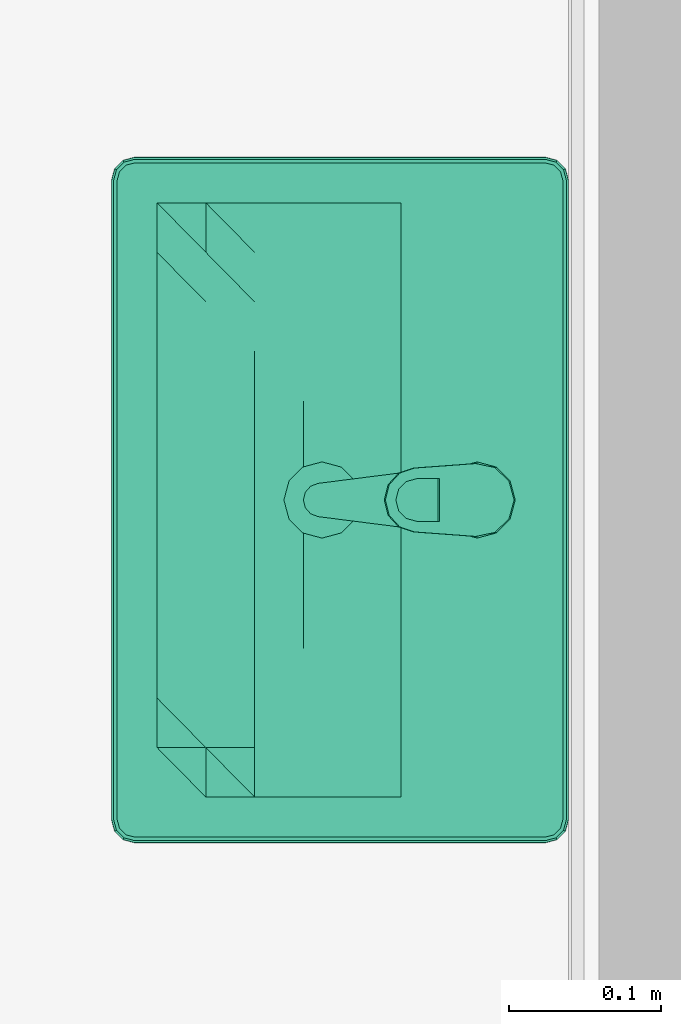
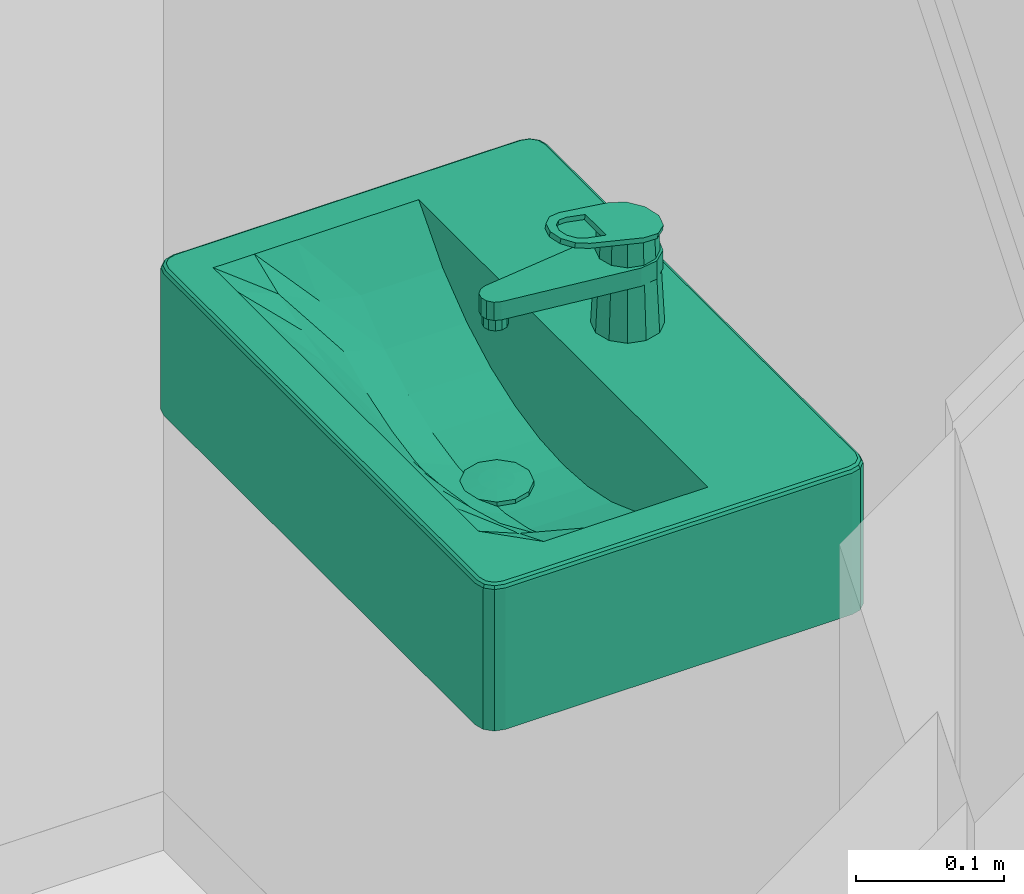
# One storey, part 310 of 347: 1 flow terminal.
"""IFC2X3 building model written with IfcOpenShell, lengths in millimetres."""

from ifc_helpers import new_model, entity, si_unit, converted_unit, derived_unit, money_unit, direction, frame, origin_with_axes, place, context, subcontext, project, spatial, open_shell, faceted_brep, surface_model, type_object, element, save


model = new_model("IFC2X3")

# Units and contexts
model_context = context("Model", 3, precision=0.01, world=origin_with_axes(), true_north=direction((0.0, 1.0)))
plan_context = context("Plan", 3, precision=0.01, world=origin_with_axes(), true_north=direction((0.0, 1.0)))
body_context = subcontext(model_context, "Body", "Model", "MODEL_VIEW")
ifc_project = project(units=[si_unit("LENGTHUNIT", "METRE", prefix="MILLI"), si_unit("AREAUNIT", "SQUARE_METRE"), si_unit("VOLUMEUNIT", "CUBIC_METRE"), converted_unit("PLANEANGLEUNIT", "DEGREE", entity("IfcPlaneAngleMeasure", 0.0174532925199), si_unit("PLANEANGLEUNIT", "RADIAN"), dimensions=[0, 0, 0, 0, 0, 0, 0]), money_unit("EUR"), converted_unit("TIMEUNIT", "Year", entity("IfcTimeMeasure", 31556926.0), si_unit("TIMEUNIT", "SECOND"), dimensions=[0, 0, 1, 0, 0, 0, 0]), si_unit("MASSUNIT", "GRAM", prefix="KILO"), si_unit("THERMODYNAMICTEMPERATUREUNIT", "DEGREE_CELSIUS"), si_unit("LUMINOUSINTENSITYUNIT", "LUMEN"), si_unit("ENERGYUNIT", "JOULE", prefix="MEGA"), derived_unit("THERMALCONDUCTANCEUNIT", [(si_unit("POWERUNIT", "WATT"), 1), (si_unit("LENGTHUNIT", "METRE"), -1), (si_unit("THERMODYNAMICTEMPERATUREUNIT", "KELVIN"), -1)]), derived_unit("SPECIFICHEATCAPACITYUNIT", [(si_unit("ENERGYUNIT", "JOULE"), 1), (si_unit("MASSUNIT", "GRAM", prefix="KILO"), -1), (si_unit("THERMODYNAMICTEMPERATUREUNIT", "KELVIN"), -1)]), derived_unit("MASSDENSITYUNIT", [(si_unit("MASSUNIT", "GRAM", prefix="KILO"), 1), (si_unit("VOLUMEUNIT", "CUBIC_METRE"), -1)])], contexts=[model_context, plan_context])

# Site, building, storey
site_placement = place(None, origin_with_axes())
site = spatial("IfcSite", under=ifc_project, at=site_placement, Name="Site", CompositionType="ELEMENT")
building_placement = place(site_placement, origin_with_axes())
building = spatial("IfcBuilding", under=site, at=building_placement, Name="Naam gebouw", CompositionType="ELEMENT")
storey_placement = place(building_placement, origin_with_axes())
storey = spatial("IfcBuildingStorey", under=building, at=storey_placement, Name="begane grond", CompositionType="ELEMENT", Elevation=0.0)

# Flow terminal
sanitary_terminal_type = type_object("IfcSanitaryTerminalType", Name="Wasbak 25", PredefinedType="SANITARYFOUNTAIN")
flow_terminal_placement = place(storey_placement, frame((15775.0, 15465.0, 0.0), z_axis=(0.0, 0.0, 1.0), x_axis=(0.0, -1.0, 0.0)))
element("IfcFlowTerminal", 1, at=flow_terminal_placement, inside=storey, type_object=sanitary_terminal_type, Name="52_Sanitair wastafel", context=body_context, shape_type="SurfaceModel", body=[
    faceted_brep([(210.0, -300.0, 780.0), (-210.0, -300.0, 780.0), (-217.5, -297.990381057, 780.0), (-222.990381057, -292.5, 780.0), (-225.0, -285.0, 780.0), (-225.0, -15.0, 780.0), (-222.990381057, -7.5, 780.0), (-217.5, -2.00961894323, 780.0), (-210.0, 0.0, 780.0), (210.0, 0.0, 780.0), (217.5, -2.00961894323, 780.0), (222.990381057, -7.5, 780.0), (225.0, -15.0, 780.0), (225.0, -285.0, 780.0), (222.990381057, -292.5, 780.0), (217.5, -297.990381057, 780.0), (-195.0, -270.0, 780.0), (195.0, -270.0, 780.0), (195.0, -110.0, 780.0), (-195.0, -110.0, 780.0), (210.000000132, -300.00000039, 895.0), (-209.999999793, -300.00000039, 895.0), (-217.500000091, -297.990381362, 895.0), (-222.990381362, -292.500000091, 895.0), (-225.00000039, -284.999999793, 895.0), (-225.00000039, -15.0000002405, 895.0), (-222.990381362, -7.49999994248, 895.0), (-217.500000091, -2.00961867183, 895.0), (-209.999999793, 3.55541707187e-07, 895.0), (210.000000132, 3.55541707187e-07, 895.0), (217.50000043, -2.00961867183, 895.0), (222.990380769, -7.49999994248, 895.0), (224.999999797, -15.0000002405, 895.0), (224.999999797, -284.999999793, 895.0), (222.990380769, -292.500000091, 895.0), (217.50000043, -297.990381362, 895.0), (-195.0, -270.0, 899.999999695), (195.0, -270.0, 899.999999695), (195.0, -110.0, 899.999999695), (-195.0, -110.0, 899.999999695), (209.977570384, -299.829629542, 896.294095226), (-209.977570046, -299.829629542, 896.294095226), (-217.411809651, -297.837631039, 896.294095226), (-222.837631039, -292.411809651, 896.294095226), (-224.829629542, -284.977570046, 896.294095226), (-224.829629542, -15.0224299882, 896.294095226), (-222.837631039, -7.58819038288, 896.294095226), (-217.411809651, -2.16236899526, 896.294095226), (-209.977570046, -0.170370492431, 896.294095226), (209.977570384, -0.170370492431, 896.294095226), (217.411809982, -2.16236899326, 896.294095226), (222.837630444, -7.58819037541, 896.294095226), (224.829628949, -15.0224299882, 896.294095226), (224.829628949, -284.977570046, 896.294095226), (222.837630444, -292.411809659, 896.294095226), (217.411809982, -297.837631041, 896.294095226), (-209.34173768, -4.99999679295, 899.999999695), (-214.911811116, -6.49249347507, 899.999999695), (-218.507506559, -10.0881889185, 899.999999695), (-220.000003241, -15.6582623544, 899.999999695), (-220.000003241, -284.34173768, 899.999999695), (-218.507506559, -289.911811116, 899.999999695), (-214.911811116, -293.507506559, 899.999999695), (-209.34173768, -295.000003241, 899.999999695), (209.341738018, -295.000003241, 899.999999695), (214.911811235, -293.507506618, 899.999999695), (218.507505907, -289.911811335, 899.999999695), (220.000002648, -284.34173768, 899.999999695), (220.000002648, -15.6582623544, 899.999999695), (218.507505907, -10.088188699, 899.999999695), (214.911811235, -6.49249341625, 899.999999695), (209.341738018, -4.99999679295, 899.999999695), (209.807199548, -298.535534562, 898.535533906), (-209.807199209, -298.535534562, 898.535533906), (-216.741936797, -296.677377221, 898.535533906), (-221.677377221, -291.741936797, 898.535533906), (-223.535534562, -284.807199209, 898.535533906), (-223.535534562, -15.1928008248, 898.535533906), (-221.677377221, -8.25806323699, 898.535533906), (-216.741936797, -3.32262281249, 898.535533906), (-209.807199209, -1.46446547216, 898.535533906), (209.807199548, -1.46446547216, 898.535533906), (216.741937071, -3.32262279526, 898.535533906), (221.677376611, -8.25806317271, 898.535533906), (223.535533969, -15.1928008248, 898.535533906), (223.535533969, -284.807199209, 898.535533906), (221.677376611, -291.741936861, 898.535533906), (216.741937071, -296.677377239, 898.535533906), (-215.581682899, -5.33224151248, 899.829629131), (-209.512108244, -3.70590388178, 899.829629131), (-219.667758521, -9.41831713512, 899.829629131), (-221.294096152, -15.4878917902, 899.829629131), (-221.294096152, -284.512108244, 899.829629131), (-219.667758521, -290.581682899, 899.829629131), (-215.581682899, -294.667758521, 899.829629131), (-209.512108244, -296.294096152, 899.829629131), (209.512108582, -296.294096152, 899.829629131), (215.581683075, -294.667758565, 899.829629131), (219.667757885, -290.581683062, 899.829629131), (221.294095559, -284.512108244, 899.829629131), (221.294095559, -15.4878917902, 899.829629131), (219.667757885, -9.41831697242, 899.829629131), (215.581683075, -5.33224146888, 899.829629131), (209.512108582, -3.70590388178, 899.829629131)], [[[0, 1, 2, 3, 4, 5, 6, 7, 8, 9, 10, 11, 12, 13, 14, 15], [16, 17, 18, 19]], [[0, 20, 21, 1]], [[1, 21, 22, 2]], [[2, 22, 23, 3]], [[3, 23, 24, 4]], [[4, 24, 25, 5]], [[5, 25, 26, 6]], [[6, 26, 27, 7]], [[7, 27, 28, 8]], [[8, 28, 29, 9]], [[9, 29, 30, 10]], [[10, 30, 31, 11]], [[11, 31, 32, 12]], [[12, 32, 33, 13]], [[13, 33, 34, 14]], [[14, 34, 35, 15]], [[15, 35, 20, 0]], [[36, 37, 17, 16]], [[37, 38, 18, 17]], [[38, 39, 19, 18]], [[39, 36, 16, 19]], [[20, 40, 41, 21]], [[21, 41, 42, 22]], [[22, 42, 43, 23]], [[23, 43, 44, 24]], [[24, 44, 45, 25]], [[25, 45, 46, 26]], [[26, 46, 47, 27]], [[27, 47, 48, 28]], [[28, 48, 49, 29]], [[29, 49, 50, 30]], [[30, 50, 51, 31]], [[31, 51, 52, 32]], [[32, 52, 53, 33]], [[33, 53, 54, 34]], [[34, 54, 55, 35]], [[35, 55, 40, 20]], [[56, 57, 58, 59, 60, 61, 62, 63, 64, 65, 66, 67, 68, 69, 70, 71], [36, 39, 38, 37]], [[40, 72, 73, 41]], [[41, 73, 74, 42]], [[42, 74, 75, 43]], [[43, 75, 76, 44]], [[44, 76, 77, 45]], [[45, 77, 78, 46]], [[46, 78, 79, 47]], [[47, 79, 80, 48]], [[48, 80, 81, 49]], [[49, 81, 82, 50]], [[50, 82, 83, 51]], [[51, 83, 84, 52]], [[52, 84, 85, 53]], [[53, 85, 86, 54]], [[54, 86, 87, 55]], [[55, 87, 72, 40]], [[88, 57, 56, 89]], [[90, 58, 57, 88]], [[91, 59, 58, 90]], [[92, 60, 59, 91]], [[93, 61, 60, 92]], [[94, 62, 61, 93]], [[95, 63, 62, 94]], [[96, 64, 63, 95]], [[97, 65, 64, 96]], [[98, 66, 65, 97]], [[99, 67, 66, 98]], [[100, 68, 67, 99]], [[101, 69, 68, 100]], [[102, 70, 69, 101]], [[103, 71, 70, 102]], [[89, 56, 71, 103]], [[72, 96, 95, 73]], [[73, 95, 94, 74]], [[74, 94, 93, 75]], [[75, 93, 92, 76]], [[76, 92, 91, 77]], [[77, 91, 90, 78]], [[78, 90, 88, 79]], [[79, 88, 89, 80]], [[80, 89, 103, 81]], [[81, 103, 102, 82]], [[82, 102, 101, 83]], [[83, 101, 100, 84]], [[84, 100, 99, 85]], [[85, 99, 98, 86]], [[86, 98, 97, 87]], [[87, 97, 96, 72]]]),
    faceted_brep([(-195.0, -270.0, 780.0), (-195.0, -110.0, 780.0), (195.0, -110.0, 780.0), (195.0, -270.0, 780.0), (12.5, -183.463635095, 780.0), (21.6506350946, -174.313, 780.0), (25.0, -161.813, 780.0), (21.6506350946, -149.313, 780.0), (12.5, -140.162364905, 780.0), (0.0, -136.813, 780.0), (-12.5, -140.162364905, 780.0), (-21.6506350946, -149.313, 780.0), (-25.0, -161.813, 780.0), (-21.6506350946, -174.313, 780.0), (-12.5, -183.463635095, 780.0), (0.0, -186.813, 780.0), (-195.0, -206.0, 900.0), (-195.0, -174.0, 900.0), (-195.0, -142.0, 900.0), (-195.0, -110.0, 900.0), (-195.0, -270.0, 900.0), (-195.0, -238.0, 900.0), (97.5, -110.0, 820.685337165), (130.0, -110.0, 838.233901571), (162.5, -110.0, 863.337654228), (195.0, -110.0, 900.0), (-162.5, -110.0, 863.337654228), (-130.0, -110.0, 838.233901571), (-97.5, -110.0, 820.685337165), (-65.0, -110.0, 808.964848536), (-32.5, -110.0, 802.209541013), (0.0, -110.0, 800.0), (32.5, -110.0, 802.209541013), (65.0, -110.0, 808.964848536), (195.0, -174.0, 900.0), (195.0, -206.0, 900.0), (195.0, -238.0, 900.0), (195.0, -270.0, 900.0), (195.0, -142.0, 900.0), (-97.5, -270.0, 900.0), (-130.0, -270.0, 900.0), (-162.5, -270.0, 900.0), (162.5, -270.0, 900.0), (130.0, -270.0, 900.0), (97.5, -270.0, 900.0), (65.0, -270.0, 900.0), (32.5, -270.0, 900.0), (0.0, -270.0, 900.0), (-32.5, -270.0, 900.0), (-65.0, -270.0, 900.0), (12.5, -183.463635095, 804.999003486), (21.6506350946, -174.313, 801.609167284), (21.7345031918, -174.0, 801.477639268), (25.0, -161.813, 801.699646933), (21.6506350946, -149.313, 801.471937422), (14.3376350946, -142.0, 800.974756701), (12.5, -140.162364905, 800.849823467), (0.0, -136.813, 800.0), (-12.5, -140.162364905, 800.849823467), (-14.3376350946, -142.0, 800.974756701), (-21.6506350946, -149.313, 801.471937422), (-25.0, -161.813, 801.699646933), (-21.7345031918, -174.0, 801.477639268), (-21.6506350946, -174.313, 801.607186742), (-12.5, -183.463635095, 804.939121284), (-10.2294127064, -184.072037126, 805.04764786), (0.0, -186.813, 805.617655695), (-162.5, -174.0, 863.337654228), (-162.5, -142.0, 863.337654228), (-162.5, -238.0, 886.956973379), (-162.5, -206.0, 869.931060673), (130.0, -142.0, 838.233901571), (97.5, -142.0, 820.685337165), (162.5, -142.0, 863.337654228), (-130.0, -142.0, 838.233901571), (-97.5, -142.0, 820.685337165), (-65.0, -142.0, 808.964848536), (-32.5, -142.0, 802.209541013), (32.5, -142.0, 802.209541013), (65.0, -142.0, 808.964848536), (162.5, -206.0, 869.931060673), (162.5, -238.0, 886.956973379), (162.5, -174.0, 863.337654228), (-97.5, -238.0, 868.630654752), (-130.0, -238.0, 876.559022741), (130.0, -238.0, 876.559022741), (97.5, -238.0, 868.630654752), (65.0, -238.0, 863.048407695), (32.5, -238.0, 859.730275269), (0.0, -238.0, 858.629325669), (-32.5, -238.0, 859.730275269), (-65.0, -238.0, 863.048407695), (0.0, -206.0, 814.029890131), (32.5, -174.0, 802.209541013), (-32.5, -174.0, 802.209541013), (-32.5, -206.0, 816.036947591), (-130.0, -174.0, 838.233901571), (130.0, -174.0, 838.233901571), (97.5, -174.0, 820.685337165), (-97.5, -174.0, 820.685337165), (-65.0, -174.0, 808.964848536), (65.0, -174.0, 808.964848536), (32.5, -206.0, 816.036947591), (-65.0, -206.0, 822.152509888), (-130.0, -206.0, 848.235620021), (97.5, -206.0, 832.683441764), (130.0, -206.0, 848.235620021), (-97.5, -206.0, 832.683441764), (65.0, -206.0, 822.152509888)], [[[0, 1, 2, 3], [4, 5, 6, 7, 8, 9, 10, 11, 12, 13, 14, 15]], [[16, 17, 18, 19, 1, 0, 20, 21]], [[22, 23, 24, 25, 2, 1, 19, 26, 27, 28, 29, 30, 31, 32, 33]], [[34, 35, 36, 37, 3, 2, 25, 38]], [[39, 40, 41, 20, 0, 3, 37, 42, 43, 44, 45, 46, 47, 48, 49]], [[50, 51, 5, 4]], [[52, 53, 6, 5, 51]], [[53, 54, 7, 6]], [[54, 55, 56, 8, 7]], [[56, 57, 9, 8]], [[57, 58, 10, 9]], [[58, 59, 60, 11, 10]], [[60, 61, 12, 11]], [[62, 63, 13, 12, 61]], [[63, 64, 14, 13]], [[65, 66, 15, 14, 64]], [[66, 50, 4, 15]], [[16, 67, 17]], [[67, 68, 18, 17]], [[68, 26, 19, 18]], [[20, 69, 21]], [[21, 70, 16]], [[71, 23, 22, 72]], [[73, 24, 23, 71]], [[38, 25, 24, 73]], [[74, 27, 26, 68]], [[75, 28, 27, 74]], [[76, 29, 28, 75]], [[77, 30, 29, 76]], [[58, 57, 31, 30, 77, 59]], [[56, 55, 78, 32, 31, 57]], [[79, 33, 32, 78]], [[72, 22, 33, 79]], [[80, 35, 34]], [[81, 36, 35]], [[42, 37, 36]], [[34, 38, 73, 82]], [[40, 39, 83]], [[41, 40, 84]], [[20, 41, 69]], [[43, 42, 81]], [[44, 43, 85]], [[45, 44, 86]], [[46, 45, 87]], [[47, 46, 88]], [[48, 47, 89]], [[49, 48, 90]], [[39, 49, 91]], [[50, 66, 92, 93, 52, 51]], [[55, 54, 53, 52, 93, 78]], [[60, 59, 77, 94, 62, 61]], [[63, 62, 94, 95, 65, 64]], [[66, 65, 95, 92]], [[16, 70, 67]], [[96, 74, 68, 67]], [[21, 69, 70]], [[97, 71, 72, 98]], [[82, 73, 71, 97]], [[99, 75, 74, 96]], [[100, 76, 75, 99]], [[94, 77, 76, 100]], [[101, 79, 78, 93]], [[98, 72, 79, 101]], [[81, 35, 80]], [[80, 34, 82]], [[42, 36, 81]], [[39, 91, 83]], [[40, 83, 84]], [[41, 84, 69]], [[43, 81, 85]], [[44, 85, 86]], [[45, 86, 87]], [[46, 87, 88]], [[47, 88, 89]], [[48, 89, 90]], [[49, 90, 91]], [[92, 102, 93]], [[103, 95, 94]], [[90, 92, 95]], [[70, 96, 67]], [[69, 104, 70]], [[105, 97, 98]], [[106, 82, 97]], [[104, 99, 96]], [[107, 100, 99]], [[103, 94, 100]], [[102, 101, 93]], [[108, 98, 101]], [[85, 81, 80]], [[106, 80, 82]], [[83, 91, 103]], [[84, 83, 107]], [[69, 84, 104]], [[86, 85, 106]], [[87, 86, 105]], [[88, 87, 108]], [[89, 88, 102]], [[90, 89, 92]], [[91, 90, 95]], [[89, 102, 92]], [[91, 95, 103]], [[70, 104, 96]], [[105, 106, 97]], [[108, 105, 98]], [[104, 107, 99]], [[107, 103, 100]], [[102, 108, 101]], [[85, 80, 106]], [[83, 103, 107]], [[84, 107, 104]], [[86, 106, 105]], [[87, 105, 108]], [[88, 108, 102]]]),
    faceted_brep([(21.6506350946, -174.313, 800.0), (12.5, -183.463635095, 800.0), (0.0, -186.813, 800.0), (-12.5, -183.463635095, 800.0), (-21.6506350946, -174.313, 800.0), (-25.0, -161.813, 800.0), (-21.6506350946, -149.313, 800.0), (-12.5, -140.162364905, 800.0), (0.0, -136.813, 800.0), (12.5, -140.162364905, 800.0), (21.6506350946, -149.313, 800.0), (25.0, -161.813, 800.0), (21.6506350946, -174.313, 805.0), (12.5, -183.463635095, 805.0), (0.0, -186.813, 805.0), (-12.5, -183.463635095, 805.0), (-21.6506350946, -174.313, 805.0), (-25.0, -161.813, 805.0), (-21.6506350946, -149.313, 805.0), (-12.5, -140.162364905, 805.0), (0.0, -136.813, 805.0), (12.5, -140.162364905, 805.0), (21.6506350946, -149.313, 805.0), (25.0, -161.813, 805.0)], [[[0, 1, 2, 3, 4, 5, 6, 7, 8, 9, 10, 11]], [[1, 0, 12, 13]], [[2, 1, 13, 14]], [[3, 2, 14, 15]], [[4, 3, 15, 16]], [[5, 4, 16, 17]], [[6, 5, 17, 18]], [[7, 6, 18, 19]], [[8, 7, 19, 20]], [[9, 8, 20, 21]], [[10, 9, 21, 22]], [[11, 10, 22, 23]], [[0, 11, 23, 12]], [[12, 23, 22, 21, 20, 19, 18, 17, 16, 15, 14, 13]]]),
    surface_model("IfcShellBasedSurfaceModel", [(0.0, -161.813, 807.0), (0.0, -149.191094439, 806.49757372), (-6.31095278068, -150.88210914, 806.49757372), (6.31095278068, -150.88210914, 806.49757372), (0.0, -136.813, 805.0), (-12.5, -140.162364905, 805.0), (-10.9308908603, -155.502047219, 806.49757372), (10.9308908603, -155.502047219, 806.49757372), (12.5, -140.162364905, 805.0), (-21.6506350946, -149.313, 805.0), (-12.6219055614, -161.813, 806.49757372), (12.6219055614, -161.813, 806.49757372), (21.6506350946, -149.313, 805.0), (-25.0, -161.813, 805.0), (-10.9308908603, -168.123952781, 806.49757372), (10.9308908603, -168.123952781, 806.49757372), (25.0, -161.813, 805.0), (-21.6506350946, -174.313, 805.0), (-6.31095278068, -172.74389086, 806.49757372), (6.31095278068, -172.74389086, 806.49757372), (21.6506350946, -174.313, 805.0), (-12.5, -183.463635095, 805.0), (0.0, -174.434905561, 806.49757372), (12.5, -183.463635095, 805.0), (0.0, -186.813, 805.0)], [open_shell([[[0, 1, 2]], [[0, 3, 1]], [[2, 1, 4, 5]], [[0, 2, 6]], [[0, 7, 3]], [[1, 3, 8, 4]], [[6, 2, 5, 9]], [[0, 6, 10]], [[0, 11, 7]], [[3, 7, 12, 8]], [[10, 6, 9, 13]], [[0, 10, 14]], [[0, 15, 11]], [[7, 11, 16, 12]], [[14, 10, 13, 17]], [[0, 14, 18]], [[0, 19, 15]], [[11, 15, 20, 16]], [[18, 14, 17, 21]], [[0, 18, 22]], [[0, 22, 19]], [[15, 19, 23, 20]], [[22, 18, 21, 24]], [[19, 22, 24, 23]]])]),
    faceted_brep([(12.5, -38.3493649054, 900.0), (0.0, -35.0, 900.0), (0.0, -38.7980769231, 975.961538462), (10.5873227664, -41.6622190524, 976.507089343), (21.6506350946, -47.5, 900.0), (25.0, -60.0, 900.0), (21.6506350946, -72.5, 900.0), (12.5, -81.6506350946, 900.0), (0.0, -85.0, 900.0), (-12.5, -81.6506350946, 900.0), (-21.6506350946, -72.5, 900.0), (-25.0, -60.0, 900.0), (-21.6506350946, -47.5, 900.0), (-12.5, -38.3493649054, 900.0), (-10.5873227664, -41.6622190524, 976.507089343), (-18.2735503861, -49.4497607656, 977.990430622), (-21.0, -60.0, 980.0), (-18.1003413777, -70.4502369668, 981.990521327), (-10.4141059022, -78.037760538, 983.435763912), (0.0, -80.8018867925, 983.962264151), (10.4141059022, -78.037760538, 983.435763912), (18.1003413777, -70.4502369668, 981.990521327), (21.0, -60.0, 980.0), (18.2735503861, -49.4497607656, 977.990430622)], [[[0, 1, 2, 3]], [[0, 4, 5, 6, 7, 8, 9, 10, 11, 12, 13, 1]], [[1, 13, 14, 2]], [[3, 2, 14, 15, 16, 17, 18, 19, 20, 21, 22, 23]], [[4, 0, 3, 23]], [[5, 4, 23, 22]], [[6, 5, 22, 21]], [[7, 6, 21, 20]], [[8, 7, 20, 19]], [[9, 8, 19, 18]], [[10, 9, 18, 17]], [[11, 10, 17, 16]], [[12, 11, 16, 15]], [[13, 12, 15, 14]]]),
    faceted_brep([(9.0, -163.0, 935.0), (7.79422863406, -158.5, 935.0), (7.79422863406, -158.5, 945.0), (9.0, -163.0, 945.0), (7.79422863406, -167.5, 935.0), (4.5, -170.794228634, 935.0), (0.0, -172.0, 935.0), (-4.5, -170.794228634, 935.0), (-7.79422863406, -167.5, 935.0), (-9.0, -163.0, 935.0), (-7.79422863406, -158.5, 935.0), (-4.5, -155.205771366, 935.0), (0.0, -154.0, 935.0), (4.5, -155.205771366, 935.0), (4.5, -155.205771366, 945.0), (0.0, -154.0, 945.0), (-4.5, -155.205771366, 945.0), (-7.79422863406, -158.5, 945.0), (-9.0, -163.0, 945.0), (-7.79422863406, -167.5, 945.0), (-4.5, -170.794228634, 945.0), (0.0, -172.0, 945.0), (4.5, -170.794228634, 945.0), (7.79422863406, -167.5, 945.0)], [[[0, 1, 2, 3]], [[0, 4, 5, 6, 7, 8, 9, 10, 11, 12, 13, 1]], [[1, 13, 14, 2]], [[3, 2, 14, 15, 16, 17, 18, 19, 20, 21, 22, 23]], [[4, 0, 3, 23]], [[5, 4, 23, 22]], [[6, 5, 22, 21]], [[7, 6, 21, 20]], [[8, 7, 20, 19]], [[9, 8, 19, 18]], [[10, 9, 18, 17]], [[11, 10, 17, 16]], [[12, 11, 16, 15]], [[13, 12, 15, 14]]]),
    faceted_brep([(-12.8717176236, -39.7436961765, 960.0), (-21.727805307, -49.8067946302, 960.0), (-23.8054, -63.0499, 960.0), (-10.911990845, -164.388371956, 960.0), (-9.02887546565, -169.283194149, 960.0), (-5.09332449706, -172.749726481, 960.0), (3.62679860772e-05, -173.99996004, 960.0), (5.09338878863, -172.749692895, 960.0), (9.02891689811, -169.283134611, 960.0), (10.912, -164.3883, 960.0), (23.8053997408, -63.0499020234, 960.0), (21.7278061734, -49.806796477, 960.0), (12.8717193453, -39.7436972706, 960.0), (1.01998896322e-06, -36.000021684, 960.0), (11.0, -40.9474411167, 960.0), (19.0525588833, -49.0, 960.0), (22.0, -60.0, 960.0), (19.0525588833, -71.0, 960.0), (11.0, -79.0525588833, 960.0), (0.0, -82.0, 960.0), (-11.0, -79.0525588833, 960.0), (-19.0525588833, -71.0, 960.0), (-22.0, -60.0, 960.0), (-19.0525588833, -49.0, 960.0), (-11.0, -40.9474411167, 960.0), (0.0, -38.0, 960.0), (-21.727805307, -49.8067946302, 945.0), (-12.8717176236, -39.7436961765, 945.0), (-23.8054, -63.0499, 945.0), (-10.911990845, -164.388371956, 945.0), (-9.02887546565, -169.283194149, 945.0), (-5.09332449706, -172.749726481, 945.0), (3.62679860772e-05, -173.99996004, 945.0), (5.09338878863, -172.749692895, 945.0), (9.02891689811, -169.283134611, 945.0), (10.912, -164.3883, 945.0), (23.8053997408, -63.0499020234, 945.0), (21.7278061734, -49.806796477, 945.0), (12.8717193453, -39.7436972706, 945.0), (1.01998896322e-06, -36.000021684, 945.0), (11.375, -40.2979220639, 945.0), (19.7020779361, -48.625, 945.0), (22.75, -60.0, 945.0), (19.7020779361, -71.375, 945.0), (11.375, -79.7020779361, 945.0), (0.0, -82.75, 945.0), (-11.375, -79.7020779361, 945.0), (-19.7020779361, -71.375, 945.0), (-22.75, -60.0, 945.0), (-19.7020779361, -48.625, 945.0), (-11.375, -40.2979220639, 945.0), (0.0, -37.25, 945.0)], [[[0, 1, 2, 3, 4, 5, 6, 7, 8, 9, 10, 11, 12, 13], [14, 15, 16, 17, 18, 19, 20, 21, 22, 23, 24, 25]], [[26, 1, 0, 27]], [[28, 2, 1, 26]], [[29, 3, 2, 28]], [[30, 4, 3, 29]], [[31, 5, 4, 30]], [[32, 6, 5, 31]], [[33, 7, 6, 32]], [[34, 8, 7, 33]], [[35, 9, 8, 34]], [[36, 10, 9, 35]], [[37, 11, 10, 36]], [[38, 12, 11, 37]], [[39, 13, 12, 38]], [[27, 0, 13, 39]], [[40, 41, 15, 14]], [[41, 42, 16, 15]], [[42, 43, 17, 16]], [[43, 44, 18, 17]], [[44, 45, 19, 18]], [[20, 19, 45, 46]], [[21, 20, 46, 47]], [[22, 21, 47, 48]], [[23, 22, 48, 49]], [[24, 23, 49, 50]], [[50, 51, 25, 24]], [[51, 40, 14, 25]], [[32, 31, 30, 29, 28, 26, 27, 39, 38, 37, 36, 35, 34, 33], [44, 43, 42, 41, 40, 51, 50, 49, 48, 47, 46, 45]]]),
    faceted_brep([(23.893, -61.6925693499, 980.322394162), (21.2964214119, -49.225281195, 977.947672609), (21.2964214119, -48.4768327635, 981.877026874), (23.893, -60.9441209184, 984.251748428), (20.9459364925, -101.836702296, 987.968895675), (17.6631391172, -111.514366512, 989.812260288), (10.0614352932, -118.463746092, 991.135951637), (-0.000442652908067, -120.98561192, 991.616307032), (-10.0622123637, -118.463329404, 991.135872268), (-17.6636179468, -111.513635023, 989.812120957), (-20.946, -101.835834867, 987.968730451), (-23.893020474, -61.6922904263, 980.322341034), (-21.2962910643, -49.2250325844, 977.947625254), (-12.4716815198, -39.9088025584, 976.173105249), (0.000142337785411, -36.4680354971, 975.517721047), (12.4719245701, -39.9089481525, 976.173132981), (14.0, -85.540802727, 984.864914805), (-14.0, -85.540802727, 984.864914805), (-14.0, -100.356432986, 987.686939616), (-12.124355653, -107.232802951, 988.996724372), (-7.0, -112.266655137, 989.955553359), (0.0, -114.109172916, 990.306509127), (7.0, -112.266655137, 989.955553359), (12.124355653, -107.232802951, 988.996724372), (14.0, -100.356432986, 987.686939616), (12.4719245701, -39.1604997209, 980.102487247), (0.000142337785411, -35.7195870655, 979.447075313), (-12.4716815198, -39.1603541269, 980.102459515), (-21.2962910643, -48.4765841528, 981.87697952), (-23.893020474, -60.9438419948, 984.251695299), (-20.946, -101.087386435, 991.898084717), (-17.6636179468, -110.765186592, 993.741475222), (-10.0622123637, -117.714880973, 995.065226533), (-0.000442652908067, -120.237163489, 995.545661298), (10.0614352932, -117.71529766, 995.065305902), (17.6631391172, -110.76591808, 993.741614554), (20.9459364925, -101.088253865, 991.898249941), (14.0, -84.7923542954, 988.794269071), (14.0, -99.6079845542, 991.616293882), (12.124355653, -106.484354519, 992.926078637), (7.0, -111.518206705, 993.884907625), (0.0, -113.360724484, 994.235863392), (-7.0, -111.518206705, 993.884907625), (-12.124355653, -106.484354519, 992.926078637), (-14.0, -99.6079845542, 991.616293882), (-14.0, -84.7923542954, 988.794269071)], [[[0, 1, 2, 3]], [[0, 4, 5, 6, 7, 8, 9, 10, 11, 12, 13, 14, 15, 1], [16, 17, 18, 19, 20, 21, 22, 23, 24]], [[1, 15, 25, 2]], [[3, 2, 25, 26, 27, 28, 29, 30, 31, 32, 33, 34, 35, 36], [37, 38, 39, 40, 41, 42, 43, 44, 45]], [[4, 0, 3, 36]], [[5, 4, 36, 35]], [[6, 5, 35, 34]], [[7, 6, 34, 33]], [[8, 7, 33, 32]], [[9, 8, 32, 31]], [[10, 9, 31, 30]], [[11, 10, 30, 29]], [[12, 11, 29, 28]], [[13, 12, 28, 27]], [[14, 13, 27, 26]], [[15, 14, 26, 25]], [[17, 16, 37, 45]], [[18, 17, 45, 44]], [[19, 18, 44, 43]], [[20, 19, 43, 42]], [[21, 20, 42, 41]], [[22, 21, 41, 40]], [[23, 22, 40, 39]], [[24, 23, 39, 38]], [[16, 24, 38, 37]]]),
    surface_model("IfcShellBasedSurfaceModel", [(0.0, -182.813, 780.0), (-5.43519994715, -182.097442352, 780.0), (-5.43519994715, -182.097442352, 760.0), (0.0, -182.813, 760.0), (-10.5, -179.999533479, 780.0), (-10.5, -179.999533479, 760.0), (5.43519994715, -182.097442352, 780.0), (5.43519994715, -182.097442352, 760.0), (-14.8492424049, -176.662242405, 780.0), (-14.8492424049, -176.662242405, 760.0), (10.5, -179.999533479, 780.0), (10.5, -179.999533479, 760.0), (-18.1865334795, -172.313, 780.0), (-18.1865334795, -172.313, 760.0), (14.8492424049, -176.662242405, 780.0), (14.8492424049, -176.662242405, 760.0), (-20.2844423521, -167.248199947, 780.0), (-20.2844423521, -167.248199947, 760.0), (18.1865334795, -172.313, 780.0), (18.1865334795, -172.313, 760.0), (-21.0, -161.813, 780.0), (-21.0, -161.813, 760.0), (20.2844423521, -167.248199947, 780.0), (20.2844423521, -167.248199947, 760.0), (-20.2844423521, -156.377800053, 780.0), (-20.2844423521, -156.377800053, 760.0), (21.0, -161.813, 780.0), (21.0, -161.813, 760.0), (-18.1865334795, -151.313, 780.0), (-18.1865334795, -151.313, 760.0), (20.2844423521, -156.377800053, 780.0), (20.2844423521, -156.377800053, 760.0), (-14.8492424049, -146.963757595, 780.0), (-14.8492424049, -146.963757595, 760.0), (18.1865334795, -151.313, 780.0), (18.1865334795, -151.313, 760.0), (-10.5, -143.626466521, 780.0), (-10.5, -143.626466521, 760.0), (14.8492424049, -146.963757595, 780.0), (14.8492424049, -146.963757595, 760.0), (-5.43519994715, -141.528557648, 780.0), (-5.43519994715, -141.528557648, 760.0), (10.5, -143.626466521, 780.0), (10.5, -143.626466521, 760.0), (0.0, -140.813, 780.0), (0.0, -140.813, 760.0), (5.43519994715, -141.528557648, 780.0), (5.43519994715, -141.528557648, 760.0)], [open_shell([[[0, 1, 2, 3]], [[1, 4, 5, 2]], [[6, 0, 3, 7]], [[4, 8, 9, 5]], [[10, 6, 7, 11]], [[8, 12, 13, 9]], [[14, 10, 11, 15]], [[12, 16, 17, 13]], [[18, 14, 15, 19]], [[16, 20, 21, 17]], [[22, 18, 19, 23]], [[20, 24, 25, 21]], [[26, 22, 23, 27]], [[24, 28, 29, 25]], [[30, 26, 27, 31]], [[28, 32, 33, 29]], [[34, 30, 31, 35]], [[32, 36, 37, 33]], [[38, 34, 35, 39]], [[36, 40, 41, 37]], [[42, 38, 39, 43]], [[40, 44, 45, 41]], [[46, 42, 43, 47]], [[44, 46, 47, 45]]])]),
])

save(model, "model.ifc")
